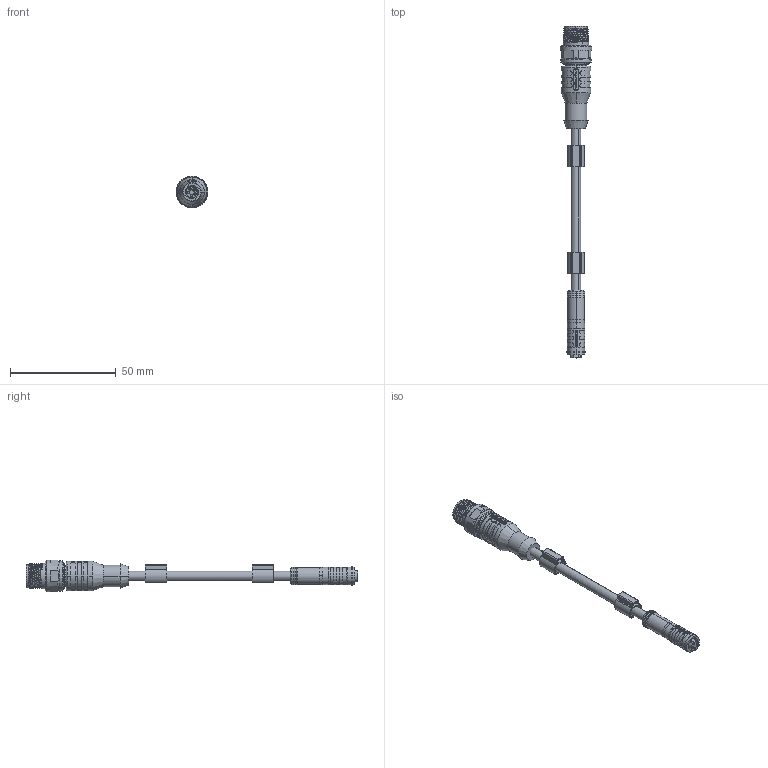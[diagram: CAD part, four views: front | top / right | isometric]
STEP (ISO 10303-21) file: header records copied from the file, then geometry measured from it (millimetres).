
FILE_DESCRIPTION (( 'STEP AP203' ), '1' );
FILE_NAME ('PKG4.5S-CABLE LENGTH-RSW4.5T.STEP', '2021-09-01T01:47:11', ( '' ), ( '' ), 'SwSTEP 2.0', 'SolidWorks 2019', '' );
FILE_SCHEMA (( 'CONFIG_CONTROL_DESIGN' ));
Length unit declared in the file: millimetre
Products named in the file (13): 8004865; CM18_overmold_snap OM Differences; 8018267_contact carrier; PKG4.5S RSW TUSA; TM000098 with knurling; 8010948_yellow_8010948; 8040967; Cable with detail D4.7 (5 wires_strip outer jacket 15mm strip insulation 3mm); 8018267; CM7-1; cable jacket D4.7; 梓ワ杶; PKG4.5S-CABLE LENGTH-RSW4.5T
Assembly tree (16 placements, depth 3):
  PKG4.5S-CABLE LENGTH-RSW4.5T
    8018267
      8018267_contact carrier
      8004865  x4
    TM000098 with knurling
    8010948_yellow_8010948
    CM7-1
    Cable with detail D4.7 (5 wires_strip outer jacket 15mm strip insulation 3mm)
      cable jacket D4.7
    PKG4.5S RSW TUSA
      CM18_overmold_snap OM Differences
      8040967
    梓ワ杶  x2
Bounding box: 15 x 157.02 x 15 mm (x, y, z)
Volume: 8059 mm3; surface area: 11201 mm2
Topology: 19 solids, 19 shells, 1432 faces, 3825 edges, 2468 vertices
Faces by surface type: cylinder 653, plane 502, cone 112, bspline 87, torus 78
Entity records: 47414 total; most frequent: CARTESIAN_POINT 13705, ORIENTED_EDGE 6838, DIRECTION 6832, EDGE_CURVE 3419, AXIS2_PLACEMENT_3D 2643, VERTEX_POINT 2235, LINE 1546, VECTOR 1546
